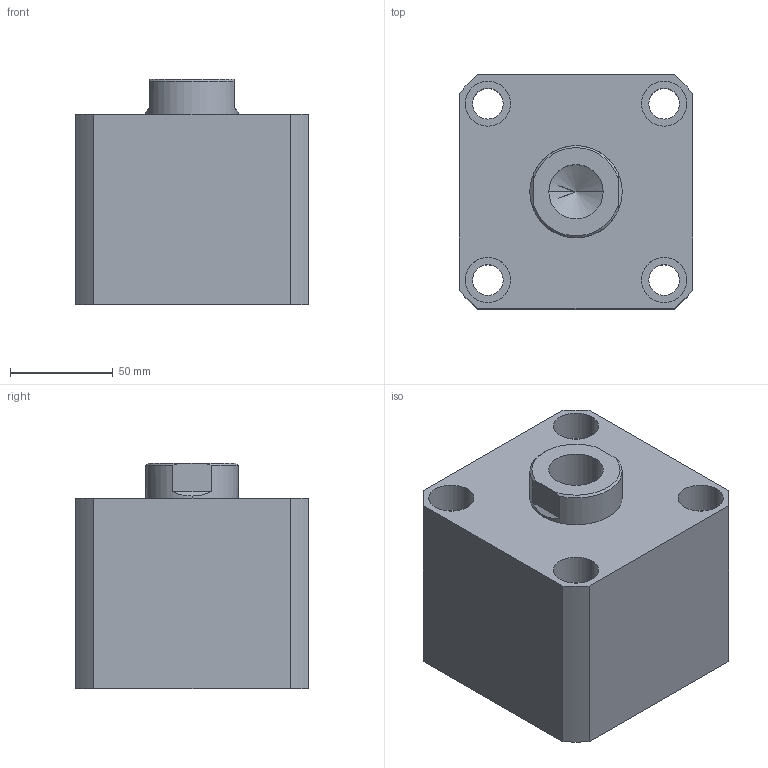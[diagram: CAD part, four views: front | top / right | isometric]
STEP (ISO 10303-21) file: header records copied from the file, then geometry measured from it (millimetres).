
FILE_DESCRIPTION (( 'STEP AP203' ), '1' );
FILE_NAME ('HTB-SDMB80-15N.STEP', '2019-10-09T05:58:10', ( '微软用户' ), ( '微软中国' ), 'SwSTEP 2.0', 'SolidWorks 2012', '' );
FILE_SCHEMA (( 'CONFIG_CONTROL_DESIGN' ));
Length unit declared in the file: millimetre
Products named in the file (3): HTB-SDMB80-15掛极; HTB-SDMB80-15N活塞杆; HTB-SDMB80-15N
Assembly tree (2 placements, depth 2):
  HTB-SDMB80-15N
    HTB-SDMB80-15掛极
    HTB-SDMB80-15N活塞杆
Bounding box: 114 x 114 x 110 mm (x, y, z)
Volume: 1055204.6 mm3; surface area: 138341.2 mm2
Topology: 2 solids, 2 shells, 137 faces, 331 edges, 217 vertices
Faces by surface type: plane 65, cylinder 46, bspline 16, torus 6, cone 4
Entity records: 5070 total; most frequent: CARTESIAN_POINT 1576, ORIENTED_EDGE 658, DIRECTION 647, EDGE_CURVE 329, AXIS2_PLACEMENT_3D 232, VERTEX_POINT 217, LINE 183, VECTOR 183
